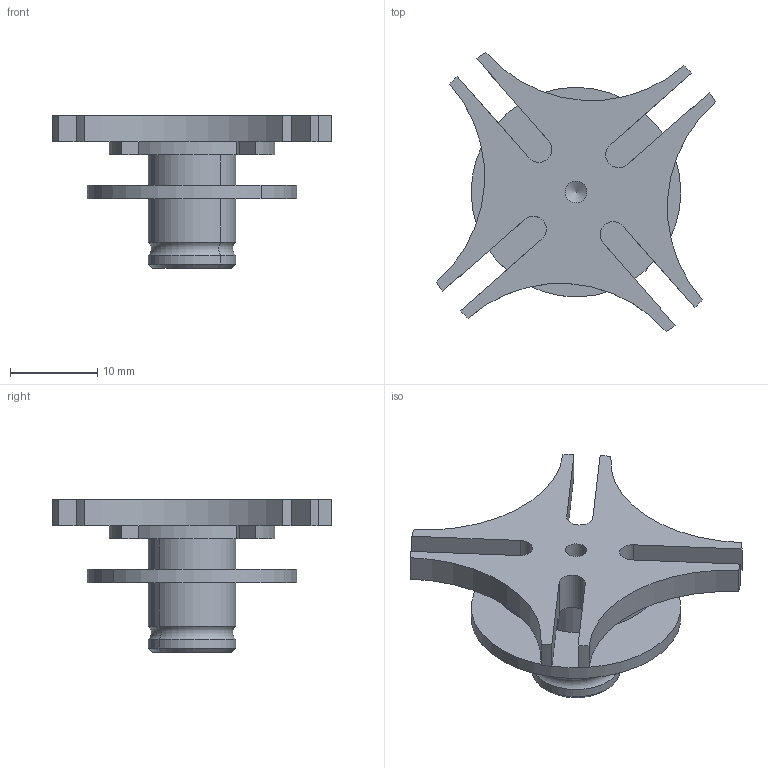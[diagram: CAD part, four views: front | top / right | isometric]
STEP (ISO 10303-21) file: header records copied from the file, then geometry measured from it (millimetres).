
FILE_DESCRIPTION( ('This file contains a STEP AP42 implementation' ,'as created by ZW3D STEP Interface translator.') ,'2;1' );
FILE_NAME( 'zkj-羞謫.stp' ,'23 9 3.214437', (''), ('ZWCAD Software Co.'), 'Version 1.0', 'ZW3D to STEP translator', '' );
FILE_SCHEMA(('AUTOMOTIVE_DESIGN { 1 0 10303 214 1 1 1 1 }'));
Length unit declared in the file: millimetre
Products named in the file (2): 0; zkj-羞謫
Bounding box: 31.92 x 31.92 x 17.5 mm (x, y, z)
Volume: 3201.5 mm3; surface area: 2990.6 mm2
Topology: 1 solids, 1 shells, 57 faces, 144 edges, 91 vertices
Faces by surface type: cylinder 32, plane 20, cone 3, torus 2
Entity records: 1828 total; most frequent: DIRECTION 332, CARTESIAN_POINT 294, ORIENTED_EDGE 288, EDGE_CURVE 144, AXIS2_PLACEMENT_3D 130, VERTEX_POINT 92, CIRCLE 72, VECTOR 72
